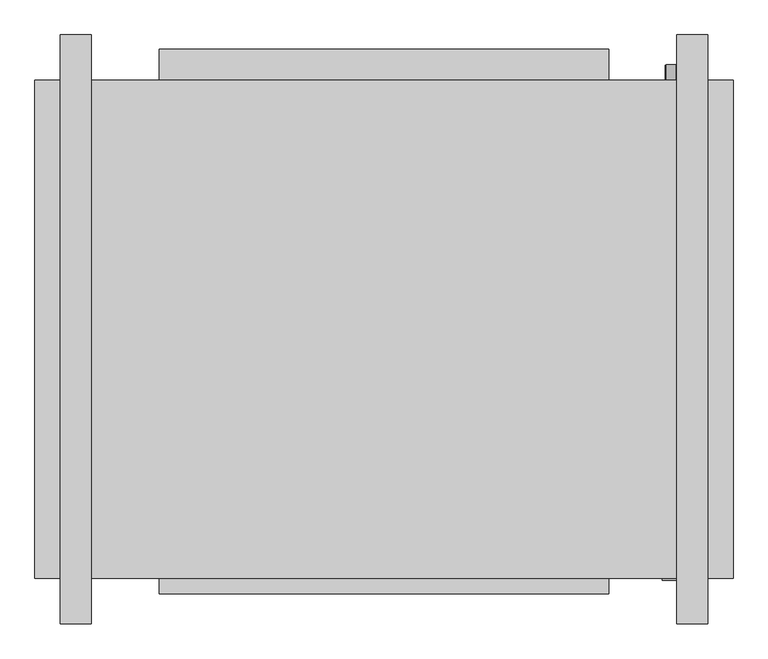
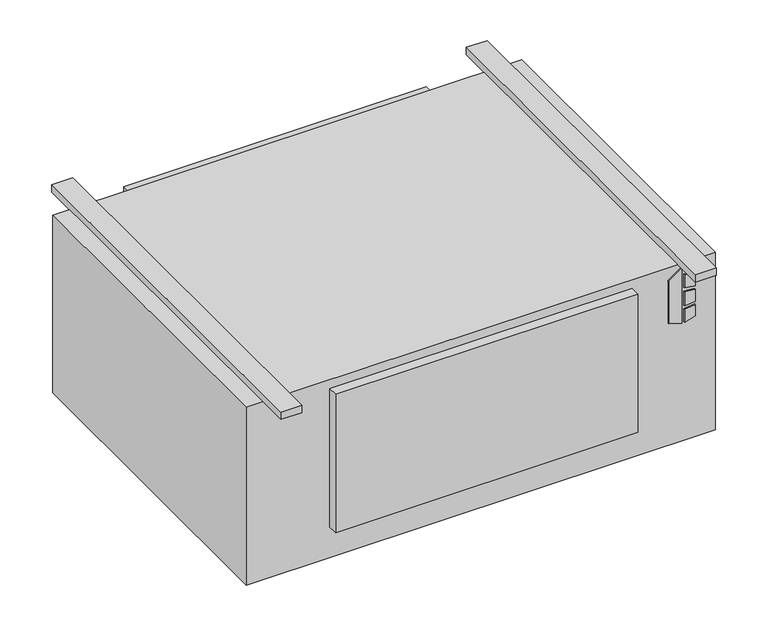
"""IFC4 building model written with IfcOpenShell, lengths in millimetres: proxy geometry, Concealed_High_Capacity_Horizontal_Cabinet_Fan_Coil_Unit_-_HXY_-_IEC_-_4-Pipe_RH_2022 : Size 12 - 277v/60Hz/1Ph - 6/2 Coil."""

from ifc_helpers import new_model, si_unit, point, frame, frame_2d, origin, origin_with_axes, place, context, project, spatial, polyline, circle_curve, trimmed, segment, composite_curve, outline, extrude, source, transform, mapped, element, save


def mechanical_equipment_52986122(model_context):
    return source(origin(), model_context, "Body", "SweptSolid", [
        extrude(outline(polyline([(-142.4519297, 608.0868862), (-152.4, 640.2602728), (-10.2290756, 640.2602728), (-33.2510817, 608.0868862), (-142.4519297, 608.0868862)])), frame((0.0, -649.2875, 0.0), z_axis=(0.0, 1.0, 0.0), x_axis=(0.0, 0.0, 1.0)), (0.0, 0.0, 1.0), 3.175),
        extrude(outline(polyline([(-63.4526443, 647.0186058), (-66.6550368, 673.1), (-37.4261958, 673.1), (-29.3617807, 647.0186058), (-63.4526443, 647.0186058)])), frame((0.0, -649.2875, 0.0), z_axis=(0.0, 1.0, 0.0), x_axis=(0.0, 0.0, 1.0)), (0.0, 0.0, 1.0), 3.175),
        extrude(outline(polyline([(-115.3161712, 673.1), (-118.9816721, 647.0186058), (-152.4, 647.0186058), (-143.7657628, 673.1), (-115.3161712, 673.1)])), frame((0.0, -649.2875, 0.0), z_axis=(0.0, 1.0, 0.0), x_axis=(0.0, 0.0, 1.0)), (0.0, 0.0, 1.0), 3.175),
        extrude(outline(polyline([(-76.0010097, 673.1), (-73.7191834, 647.0186058), (-109.6567319, 647.0186058), (-106.9154669, 673.1), (-76.0010097, 673.1)])), frame((0.0, -649.2875, 0.0), z_axis=(0.0, 1.0, 0.0), x_axis=(0.0, 0.0, 1.0)), (0.0, 0.0, 1.0), 3.175),
        extrude(outline(composite_curve([segment(trimmed(circle_curve(frame_2d((-406.4, 622.3)), 9.525), [point((-406.4, 612.775))], [point((-406.4, 631.825))], False, "CARTESIAN"), True, "CONTINUOUS"), segment(trimmed(circle_curve(frame_2d((-406.4, 622.3)), 9.525), [point((-406.4, 631.825))], [point((-406.4, 612.775))], False, "CARTESIAN"), True, "CONTINUOUS")], self_intersect=False)), frame((0.0, 169.8625, 0.0), z_axis=(0.0, 1.0, 0.0), x_axis=(0.0, 0.0, 1.0)), (0.0, 0.0, 1.0), 25.4),
        extrude(outline(composite_curve([segment(trimmed(circle_curve(frame_2d((-330.2, 622.3)), 7.9375), [point((-330.2, 614.3625))], [point((-330.2, 630.2375))], False, "CARTESIAN"), True, "CONTINUOUS"), segment(trimmed(circle_curve(frame_2d((-330.2, 622.3)), 7.9375), [point((-330.2, 630.2375))], [point((-330.2, 614.3625))], False, "CARTESIAN"), True, "CONTINUOUS")], self_intersect=False)), frame((0.0, 169.8625, 0.0), z_axis=(0.0, 1.0, 0.0), x_axis=(0.0, 0.0, 1.0)), (0.0, 0.0, 1.0), 25.4),
        extrude(outline(composite_curve([segment(trimmed(circle_curve(frame_2d((-254.0, 622.3)), 7.9375), [point((-254.0, 614.3625))], [point((-254.0, 630.2375))], False, "CARTESIAN"), True, "CONTINUOUS"), segment(trimmed(circle_curve(frame_2d((-254.0, 622.3)), 7.9375), [point((-254.0, 630.2375))], [point((-254.0, 614.3625))], False, "CARTESIAN"), True, "CONTINUOUS")], self_intersect=False)), frame((0.0, 169.8625, 0.0), z_axis=(0.0, 1.0, 0.0), x_axis=(0.0, 0.0, 1.0)), (0.0, 0.0, 1.0), 25.4),
        extrude(outline(composite_curve([segment(trimmed(circle_curve(frame_2d((-177.8, 622.3)), 7.9375), [point((-177.8, 614.3625))], [point((-177.8, 630.2375))], False, "CARTESIAN"), True, "CONTINUOUS"), segment(trimmed(circle_curve(frame_2d((-177.8, 622.3)), 7.9375), [point((-177.8, 630.2375))], [point((-177.8, 614.3625))], False, "CARTESIAN"), True, "CONTINUOUS")], self_intersect=False)), frame((0.0, 169.8625, 0.0), z_axis=(0.0, 1.0, 0.0), x_axis=(0.0, 0.0, 1.0)), (0.0, 0.0, 1.0), 25.4),
        extrude(outline(composite_curve([segment(trimmed(circle_curve(frame_2d((-101.6, 622.3)), 7.9375), [point((-101.6, 614.3625))], [point((-101.6, 630.2375))], False, "CARTESIAN"), True, "CONTINUOUS"), segment(trimmed(circle_curve(frame_2d((-101.6, 622.3)), 7.9375), [point((-101.6, 630.2375))], [point((-101.6, 614.3625))], False, "CARTESIAN"), True, "CONTINUOUS")], self_intersect=False)), frame((0.0, 169.8625, 0.0), z_axis=(0.0, 1.0, 0.0), x_axis=(0.0, 0.0, 1.0)), (0.0, 0.0, 1.0), 25.4),
        extrude(outline(polyline([(723.9, 169.8625), (723.9, -646.1125), (-419.1, -646.1125), (-419.1, 169.8625), (723.9, 169.8625)])), frame((0.0, 0.0, -457.2), z_axis=(0.0, 0.0, 1.0), x_axis=(1.0, 0.0, 0.0)), (0.0, 0.0, 1.0), 457.2),
        extrude(outline(polyline([(-215.9, 220.6625), (520.7, 220.6625), (520.7, 169.8625), (-215.9, 169.8625), (-215.9, 220.6625)])), frame((0.0, 0.0, -377.825), z_axis=(0.0, 0.0, 1.0), x_axis=(1.0, 0.0, 0.0)), (0.0, 0.0, 1.0), 349.25),
        extrude(outline(polyline([(-327.025, 244.475), (-327.025, -720.725), (-377.825, -720.725), (-377.825, 244.475), (-327.025, 244.475)])), origin_with_axes(), (0.0, 0.0, 1.0), 19.05),
        extrude(outline(polyline([(682.625, 244.475), (682.625, -720.725), (631.825, -720.725), (631.825, 244.475), (682.625, 244.475)])), origin_with_axes(), (0.0, 0.0, 1.0), 19.05),
        extrude(outline(polyline([(520.7, -671.5125), (-215.9, -671.5125), (-215.9, -646.1125), (520.7, -646.1125), (520.7, -671.5125)])), frame((0.0, 0.0, -377.825), z_axis=(0.0, 0.0, 1.0), x_axis=(1.0, 0.0, 0.0)), (0.0, 0.0, 1.0), 355.6),
    ])


if __name__ == "__main__":
    model = new_model("IFC4")
    model_context = context("Model", 3, world=origin())
    ifc_project = project(units=[si_unit("LENGTHUNIT", "METRE", prefix="MILLI")], contexts=[model_context])
    site = spatial("IfcSite", under=ifc_project)
    building = spatial("IfcBuilding", under=site)
    placement = place(None, origin())
    mechanical_equipment_shape = mechanical_equipment_52986122(model_context)
    element("IfcBuildingElementProxy", 1, Name="Concealed_High_Capacity_Horizontal_Cabinet_Fan_Coil_Unit_-_HXY_-_IEC_-_4-Pipe_RH_2022 : Size 12 - 277v/60Hz/1Ph - 6/2 Coil", ObjectType="Concealed_High_Capacity_Horizontal_Cabinet_Fan_Coil_Unit_-_HXY_-_IEC_-_4-Pipe_RH_2022 : Size 12 - 277v/60Hz/1Ph - 6/2 Coil", at=placement, inside=building, context=model_context, shape_type="MappedRepresentation", body=[
        mapped(mechanical_equipment_shape, transform((0.0, 0.0, 0.0), x_axis=(1.0, 0.0, 0.0), y_axis=(0.0, 1.0, 0.0), z_axis=(0.0, 0.0, 1.0))),
    ])
    save(model, "model.ifc")
